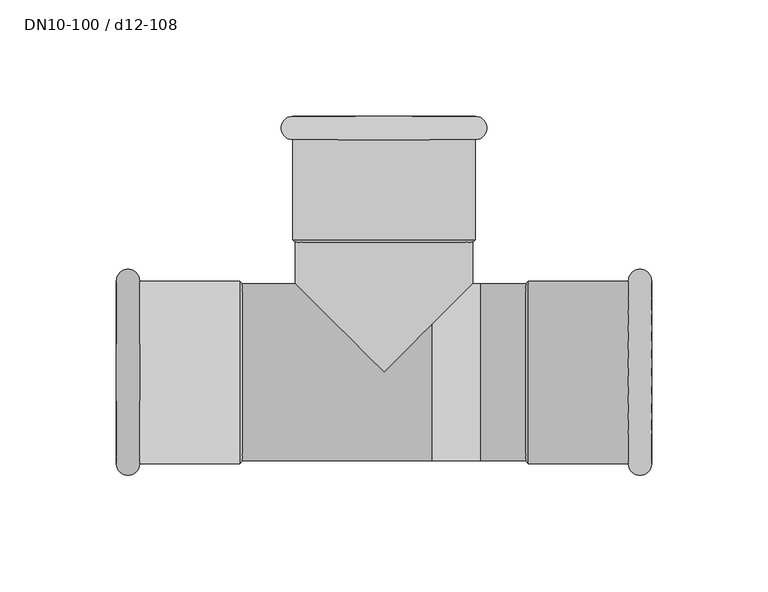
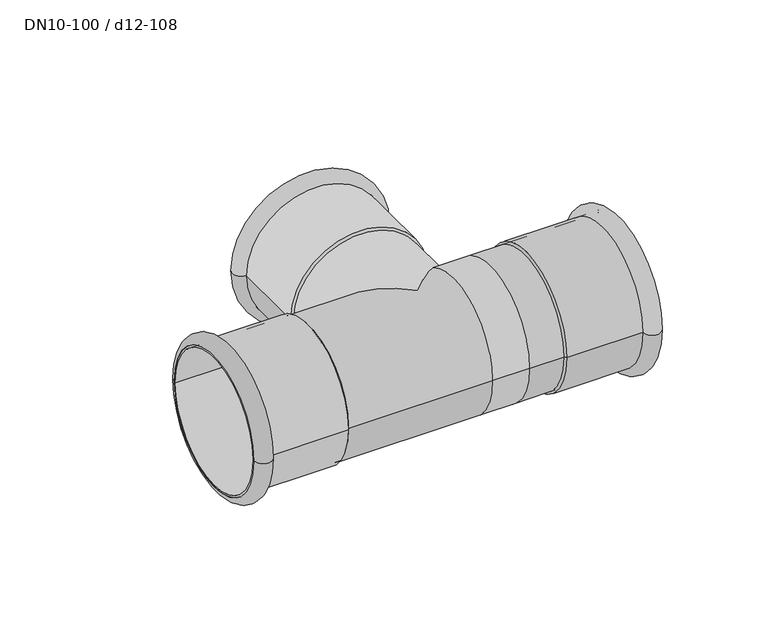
"""IFC4 building model written with IfcOpenShell, lengths in millimetres: pipe fitting geometry, NLRS_50_PIF_UN_Mapress koper gelijkzijdig T-stuk_geb : DN10-100 / d12-108."""

from ifc_helpers import new_model, si_unit, point, frame, origin, place, context, project, spatial, polyline, circle_curve, ellipse_curve, trimmed, source, transform, mapped, element, save
from ifc_brep_helpers import plane_surface, cylinder_surface, revolved_surface, advanced_brep


def dn10_100_d12_108_195be385(model_context):
    return source(origin(), model_context, "Body", "AdvancedBrep", [
        advanced_brep(
        [(39.25, 110.0, 0.0), (-39.25, 110.0, 0.0), (-39.25, 100.0, 0.0), (39.25, 100.0, 0.0)],
        [
            (0, 1, circle_curve(frame((0.0, 110.0, 0.0), z_axis=(0.0, 1.0, 0.0), x_axis=(-1.0000000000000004, 0.0, 0.0)), 39.25)),
            (1, 2),
            (2, 3, circle_curve(frame((0.0, 100.0, 0.0), z_axis=(0.0, -1.0, 0.0), x_axis=(-1.0000000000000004, 0.0, 0.0)), 39.25)),
            (3, 0),
            (1, 0, circle_curve(frame((0.0, 110.0, 0.0), z_axis=(0.0, 1.0, 0.0), x_axis=(-1.0000000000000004, 0.0, 0.0)), 39.25)),
            (3, 2, circle_curve(frame((0.0, 100.0, 0.0), z_axis=(0.0, -1.0, 0.0), x_axis=(-1.0000000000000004, 0.0, 0.0)), 39.25)),
            (2, 1, circle_curve(frame((-39.25, 105.0, 0.0), z_axis=(0.0, 0.0, -1.0000000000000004), x_axis=(0.0, 1.0, 0.0)), 5.0)),
            (0, 3, circle_curve(frame((39.25, 105.0, 0.0), z_axis=(0.0, 0.0, -1.0000000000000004), x_axis=(0.0, 1.0, 0.0)), 5.0)),
        ],
        [
            revolved_surface(polyline([(-39.250000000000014, 100.0, 0.0), (-39.250000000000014, 110.0, 0.0)]), (0.0, 57.0, 0.0), (0.0, -1.0, 0.0)),
            revolved_surface(trimmed(ellipse_curve(frame((-39.25, 105.0, 0.0), z_axis=(0.0, 0.0, 1.0000000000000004), x_axis=(0.0, 1.0, 0.0)), 5.0, 5.0), [point((-39.25, 110.0, 0.0))], [point((-39.25, 100.0, 0.0))], True, "CARTESIAN"), (0.0, 57.0, 0.0), (0.0, -1.0, 0.0)),
        ],
        [
            (0, [[1, 2, 3, 4]]),
            (0, [[5, -4, 6, -2]]),
            (1, [[-3, 7, -1, 8]]),
            (1, [[-6, -8, -5, -7]]),
        ],
    ),
        advanced_brep(
        [(38.05, 110.0, 0.0), (-38.05, 110.0, 0.0), (-38.05, 56.0, 0.0), (38.05, 56.0, 0.0), (39.25, 110.0, 0.0), (-39.25, 110.0, 0.0), (39.25, 57.0, 0.0), (-39.25, 57.0, 0.0)],
        [
            (0, 1, circle_curve(frame((0.0, 110.0, 0.0), z_axis=(0.0, 1.0, 0.0), x_axis=(-1.0000000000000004, 0.0, 0.0)), 38.05)),
            (1, 2),
            (2, 3, circle_curve(frame((0.0, 56.0, 0.0), z_axis=(0.0, -1.0, 0.0), x_axis=(-1.0000000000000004, 0.0, 0.0)), 38.05)),
            (3, 0),
            (1, 0, circle_curve(frame((0.0, 110.0, 0.0), z_axis=(0.0, 1.0, 0.0), x_axis=(-1.0000000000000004, 0.0, 0.0)), 38.05)),
            (3, 2, circle_curve(frame((0.0, 56.0, 0.0), z_axis=(0.0, -1.0, 0.0), x_axis=(-1.0000000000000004, 0.0, 0.0)), 38.05)),
            (4, 5, circle_curve(frame((0.0, 110.0, 0.0), z_axis=(0.0, 1.0, 0.0), x_axis=(-1.0000000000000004, 0.0, 0.0)), 39.25)),
            (5, 1),
            (0, 4),
            (5, 4, circle_curve(frame((0.0, 110.0, 0.0), z_axis=(0.0, 1.0, 0.0), x_axis=(-1.0000000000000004, 0.0, 0.0)), 39.25)),
            (6, 7, circle_curve(frame((0.0, 57.0, 0.0), z_axis=(0.0, 1.0, 0.0), x_axis=(-1.0000000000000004, 0.0, 0.0)), 39.25)),
            (7, 5),
            (4, 6),
            (7, 6, circle_curve(frame((0.0, 57.0, 0.0), z_axis=(0.0, 1.0, 0.0), x_axis=(-1.0000000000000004, 0.0, 0.0)), 39.25)),
            (2, 7),
            (6, 3),
        ],
        [
            revolved_surface(polyline([(-38.05000000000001, 56.0, 0.0), (-38.05000000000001, 110.0, 0.0)]), (0.0, 57.0, 0.0), (0.0, -1.0, 0.0)),
            plane_surface(frame((0.0, 110.0, 0.0), z_axis=(0.0, 1.0, 0.0), x_axis=(-1.0, 0.0, 0.0))),
            cylinder_surface(frame((0.0, 57.0, 0.0), z_axis=(0.0, -1.0, 0.0), x_axis=(-1.0000000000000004, 0.0, 0.0)), 39.25),
            revolved_surface(polyline([(-39.25, 57.0, 0.0), (-38.05, 56.0, 0.0)]), (0.0, 57.0, 0.0), (0.0, -1.0, 0.0)),
        ],
        [
            (0, [[1, 2, 3, 4]]),
            (0, [[5, -4, 6, -2]]),
            (1, [[7, 8, -1, 9]]),
            (1, [[10, -9, -5, -8]]),
            (2, [[11, 12, -7, 13]]),
            (2, [[14, -13, -10, -12]]),
            (3, [[-3, 15, -11, 16]]),
            (3, [[-6, -16, -14, -15]]),
        ],
    ),
        advanced_brep(
        [(115.0, -39.25, 0.0), (115.0, 39.25, 0.0), (105.0, 39.25, 0.0), (105.0, -39.25, 0.0)],
        [
            (0, 1, circle_curve(frame((115.0, 0.0, 0.0), z_axis=(1.0, 0.0, 0.0), x_axis=(0.0, 1.0, 0.0)), 39.25)),
            (1, 2),
            (2, 3, circle_curve(frame((105.0, 0.0, 0.0), z_axis=(-1.0, 0.0, 0.0), x_axis=(0.0, 1.0, 0.0)), 39.25)),
            (3, 0),
            (1, 0, circle_curve(frame((115.0, 0.0, 0.0), z_axis=(1.0, 0.0, 0.0), x_axis=(0.0, 1.0, 0.0)), 39.25)),
            (3, 2, circle_curve(frame((105.0, 0.0, 0.0), z_axis=(-1.0, 0.0, 0.0), x_axis=(0.0, 1.0, 0.0)), 39.25)),
            (2, 1, circle_curve(frame((110.0, 39.25, 0.0), z_axis=(0.0, 0.0, -1.0), x_axis=(1.0, 0.0, 0.0)), 5.0)),
            (0, 3, circle_curve(frame((110.0, -39.25, 0.0), z_axis=(0.0, 0.0, -1.0), x_axis=(1.0, 0.0, 0.0)), 5.0)),
        ],
        [
            revolved_surface(polyline([(105.0, 39.25, 0.0), (115.0, 39.25, 0.0)]), (62.0, 0.0, 0.0), (-1.0, 0.0, 0.0)),
            revolved_surface(trimmed(ellipse_curve(frame((110.0, 39.25, 0.0), z_axis=(0.0, 0.0, 1.0), x_axis=(1.0, 0.0, 0.0)), 5.0, 5.0), [point((115.0, 39.25, 0.0))], [point((105.0, 39.25, 0.0))], True, "CARTESIAN"), (62.0, 0.0, 0.0), (-1.0, 0.0, 0.0)),
        ],
        [
            (0, [[1, 2, 3, 4]]),
            (0, [[5, -4, 6, -2]]),
            (1, [[-3, 7, -1, 8]]),
            (1, [[-6, -8, -5, -7]]),
        ],
    ),
        advanced_brep(
        [(115.0, -38.05, 0.0), (115.0, 38.05, 0.0), (61.0, 38.05, 0.0), (61.0, -38.05, 0.0), (115.0, -39.25, 0.0), (115.0, 39.25, 0.0), (62.0, -39.25, 0.0), (62.0, 39.25, 0.0)],
        [
            (0, 1, circle_curve(frame((115.0, 0.0, 0.0), z_axis=(1.0, 0.0, 0.0), x_axis=(0.0, 1.0, 0.0)), 38.05)),
            (1, 2),
            (2, 3, circle_curve(frame((61.0, 0.0, 0.0), z_axis=(-1.0, 0.0, 0.0), x_axis=(0.0, 1.0, 0.0)), 38.05)),
            (3, 0),
            (1, 0, circle_curve(frame((115.0, 0.0, 0.0), z_axis=(1.0, 0.0, 0.0), x_axis=(0.0, 1.0, 0.0)), 38.05)),
            (3, 2, circle_curve(frame((61.0, 0.0, 0.0), z_axis=(-1.0, 0.0, 0.0), x_axis=(0.0, 1.0, 0.0)), 38.05)),
            (4, 5, circle_curve(frame((115.0, 0.0, 0.0), z_axis=(1.0, 0.0, 0.0), x_axis=(0.0, 1.0, 0.0)), 39.25)),
            (5, 1),
            (0, 4),
            (5, 4, circle_curve(frame((115.0, 0.0, 0.0), z_axis=(1.0, 0.0, 0.0), x_axis=(0.0, 1.0, 0.0)), 39.25)),
            (6, 7, circle_curve(frame((62.0, 0.0, 0.0), z_axis=(1.0, 0.0, 0.0), x_axis=(0.0, 1.0, 0.0)), 39.25)),
            (7, 5),
            (4, 6),
            (7, 6, circle_curve(frame((62.0, 0.0, 0.0), z_axis=(1.0, 0.0, 0.0), x_axis=(0.0, 1.0, 0.0)), 39.25)),
            (2, 7),
            (6, 3),
        ],
        [
            revolved_surface(polyline([(61.0, 38.05, 0.0), (115.0, 38.05, 0.0)]), (62.0, 0.0, 0.0), (-1.0, 0.0, 0.0)),
            plane_surface(frame((115.0, 0.0, 0.0), z_axis=(1.0, 0.0, 0.0), x_axis=(0.0, 1.0, 0.0))),
            cylinder_surface(frame((62.0, 0.0, 0.0), z_axis=(-1.0, 0.0, 0.0), x_axis=(0.0, 1.0, 0.0)), 39.25),
            revolved_surface(polyline([(62.0, 39.25, 0.0), (61.0, 38.05, 0.0)]), (62.0, 0.0, 0.0), (-1.0, 0.0, 0.0)),
        ],
        [
            (0, [[1, 2, 3, 4]]),
            (0, [[5, -4, 6, -2]]),
            (1, [[7, 8, -1, 9]]),
            (1, [[10, -9, -5, -8]]),
            (2, [[11, 12, -7, 13]]),
            (2, [[14, -13, -10, -12]]),
            (3, [[-3, 15, -11, 16]]),
            (3, [[-6, -16, -14, -15]]),
        ],
    ),
        advanced_brep(
        [(-115.0, 39.25, 0.0), (-115.0, -39.25, 0.0), (-105.0, -39.25, 0.0), (-105.0, 39.25, 0.0)],
        [
            (0, 1, circle_curve(frame((-115.0, 0.0, 0.0), z_axis=(-1.0, 0.0, 0.0), x_axis=(0.0, -1.0000000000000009, 0.0)), 39.25)),
            (1, 2),
            (2, 3, circle_curve(frame((-105.0, 0.0, 0.0), z_axis=(1.0, 0.0, 0.0), x_axis=(0.0, -1.0000000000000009, 0.0)), 39.25)),
            (3, 0),
            (1, 0, circle_curve(frame((-115.0, 0.0, 0.0), z_axis=(-1.0, 0.0, 0.0), x_axis=(0.0, -1.0000000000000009, 0.0)), 39.25)),
            (3, 2, circle_curve(frame((-105.0, 0.0, 0.0), z_axis=(1.0, 0.0, 0.0), x_axis=(0.0, -1.0000000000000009, 0.0)), 39.25)),
            (2, 1, circle_curve(frame((-110.0, -39.25, 0.0), z_axis=(0.0, 0.0, -1.0000000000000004), x_axis=(-1.0000000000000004, 0.0, 0.0)), 5.0)),
            (0, 3, circle_curve(frame((-110.0, 39.25, 0.0), z_axis=(0.0, 0.0, -1.0000000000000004), x_axis=(-1.0000000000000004, 0.0, 0.0)), 5.0)),
        ],
        [
            revolved_surface(polyline([(-105.00000000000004, -39.250000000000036, 0.0), (-115.00000000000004, -39.250000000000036, 0.0)]), (-62.0, 0.0, 0.0), (1.0000000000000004, 0.0, 0.0)),
            revolved_surface(trimmed(ellipse_curve(frame((-110.0, -39.25, 0.0), z_axis=(0.0, 0.0, 1.0000000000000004), x_axis=(-1.0000000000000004, 0.0, 0.0)), 5.0, 5.0), [point((-115.0, -39.25, 0.0))], [point((-105.0, -39.25, 0.0))], True, "CARTESIAN"), (-62.0, 0.0, 0.0), (1.0000000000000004, 0.0, 0.0)),
        ],
        [
            (0, [[1, 2, 3, 4]]),
            (0, [[5, -4, 6, -2]]),
            (1, [[-3, 7, -1, 8]]),
            (1, [[-6, -8, -5, -7]]),
        ],
    ),
        advanced_brep(
        [(-115.0, 38.05, 0.0), (-115.0, -38.05, 0.0), (-61.0, -38.05, 0.0), (-61.0, 38.05, 0.0), (-115.0, 39.25, 0.0), (-115.0, -39.25, 0.0), (-62.0, 39.25, 0.0), (-62.0, -39.25, 0.0)],
        [
            (0, 1, circle_curve(frame((-115.0, 0.0, 0.0), z_axis=(-1.0, 0.0, 0.0), x_axis=(0.0, -1.0000000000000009, 0.0)), 38.05)),
            (1, 2),
            (2, 3, circle_curve(frame((-61.0, 0.0, 0.0), z_axis=(1.0, 0.0, 0.0), x_axis=(0.0, -1.0000000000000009, 0.0)), 38.05)),
            (3, 0),
            (1, 0, circle_curve(frame((-115.0, 0.0, 0.0), z_axis=(-1.0, 0.0, 0.0), x_axis=(0.0, -1.0000000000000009, 0.0)), 38.05)),
            (3, 2, circle_curve(frame((-61.0, 0.0, 0.0), z_axis=(1.0, 0.0, 0.0), x_axis=(0.0, -1.0000000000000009, 0.0)), 38.05)),
            (4, 5, circle_curve(frame((-115.0, 0.0, 0.0), z_axis=(-1.0, 0.0, 0.0), x_axis=(0.0, -1.0000000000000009, 0.0)), 39.25)),
            (5, 1),
            (0, 4),
            (5, 4, circle_curve(frame((-115.0, 0.0, 0.0), z_axis=(-1.0, 0.0, 0.0), x_axis=(0.0, -1.0000000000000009, 0.0)), 39.25)),
            (6, 7, circle_curve(frame((-62.0, 0.0, 0.0), z_axis=(-1.0, 0.0, 0.0), x_axis=(0.0, -1.0000000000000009, 0.0)), 39.25)),
            (7, 5),
            (4, 6),
            (7, 6, circle_curve(frame((-62.0, 0.0, 0.0), z_axis=(-1.0, 0.0, 0.0), x_axis=(0.0, -1.0000000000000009, 0.0)), 39.25)),
            (2, 7),
            (6, 3),
        ],
        [
            revolved_surface(polyline([(-61.0, -38.05000000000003, 0.0), (-115.00000000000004, -38.05000000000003, 0.0)]), (-62.0, 0.0, 0.0), (1.0000000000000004, 0.0, 0.0)),
            plane_surface(frame((-115.0, 0.0, 0.0), z_axis=(-1.0, 0.0, 0.0), x_axis=(0.0, -1.0, 0.0))),
            cylinder_surface(frame((-62.0, 0.0, 0.0), z_axis=(1.0000000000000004, 0.0, 0.0), x_axis=(0.0, -1.0000000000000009, 0.0)), 39.25),
            revolved_surface(polyline([(-62.0, -39.25, 0.0), (-61.0, -38.05, 0.0)]), (-62.0, 0.0, 0.0), (1.0000000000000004, 0.0, 0.0)),
        ],
        [
            (0, [[1, 2, 3, 4]]),
            (0, [[5, -4, 6, -2]]),
            (1, [[7, 8, -1, 9]]),
            (1, [[10, -9, -5, -8]]),
            (2, [[11, 12, -7, 13]]),
            (2, [[14, -13, -10, -12]]),
            (3, [[-3, 15, -11, 16]]),
            (3, [[-6, -16, -14, -15]]),
        ],
    ),
        advanced_brep(
        [(41.3333333, -38.05, 0.0), (20.6666667, -38.05, 0.0), (20.6666667, 20.6666667, -31.9482611), (38.05, 38.05, 0.0), (41.3333333, 38.05, 0.0), (20.6666667, 20.6666667, 31.9482611), (62.0, -38.05, 0.0), (62.0, 38.05, 0.0), (-62.0, -38.05, 0.0), (-62.0, 38.05, 0.0), (0.0, 0.0, 38.05), (-38.05, 38.05, 0.0), (0.0, 0.0, -38.05), (38.05, 57.0, 0.0), (-38.05, 57.0, 0.0)],
        [
            (0, 1),
            (1, 2, circle_curve(frame((20.6666667, 0.0, 0.0), z_axis=(1.0, 0.0, 0.0), x_axis=(0.0, 0.0, -1.0)), 38.05)),
            (2, 3, ellipse_curve(frame((0.0, 0.0, 0.0), z_axis=(0.7071067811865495, -0.7071067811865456, 0.0), x_axis=(0.7071067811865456, 0.7071067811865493, 0.0)), 53.810826, 38.05)),
            (3, 4),
            (4, 0, circle_curve(frame((41.3333333, 0.0, 0.0), z_axis=(-1.0, 0.0, 0.0), x_axis=(0.0, 0.0, -1.0)), 38.05)),
            (0, 4, circle_curve(frame((41.3333333, 0.0, 0.0), z_axis=(-1.0, 0.0, 0.0), x_axis=(0.0, 0.0, 1.0)), 38.05)),
            (3, 5, ellipse_curve(frame((0.0, 0.0, 0.0), z_axis=(0.7071067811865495, -0.7071067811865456, 0.0), x_axis=(0.7071067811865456, 0.7071067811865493, 0.0)), 53.810826, 38.05)),
            (5, 1, circle_curve(frame((20.6666667, 0.0, 0.0), z_axis=(1.0, 0.0, 0.0), x_axis=(0.0, 0.0, 1.0)), 38.05)),
            (6, 7, circle_curve(frame((62.0, 0.0, 0.0), z_axis=(1.0, 0.0, 0.0), x_axis=(0.0, 1.0, 0.0)), 38.05)),
            (7, 6, circle_curve(frame((62.0, 0.0, 0.0), z_axis=(1.0, 0.0, 0.0), x_axis=(0.0, 1.0, 0.0)), 38.05)),
            (7, 4),
            (0, 6),
            (8, 9, circle_curve(frame((-62.0, 0.0, 0.0), z_axis=(-1.0, 0.0, 0.0), x_axis=(0.0, 1.0, 0.0)), 38.05)),
            (9, 8, circle_curve(frame((-62.0, 0.0, 0.0), z_axis=(-1.0, 0.0, 0.0), x_axis=(0.0, 1.0, 0.0)), 38.05)),
            (8, 1),
            (5, 10, ellipse_curve(frame((0.0, 0.0, 0.0), z_axis=(0.7071067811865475, -0.7071067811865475, 0.0), x_axis=(-0.7071067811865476, -0.7071067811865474, 0.0)), 53.810826, 38.05)),
            (10, 11, ellipse_curve(frame((0.0, 0.0, 0.0), z_axis=(-0.7071067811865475, -0.7071067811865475, 0.0), x_axis=(-0.7071067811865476, 0.7071067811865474, 0.0)), 53.810826, 38.05)),
            (11, 9),
            (11, 12, ellipse_curve(frame((0.0, 0.0, 0.0), z_axis=(-0.7071067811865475, -0.7071067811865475, 0.0), x_axis=(-0.7071067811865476, 0.7071067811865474, 0.0)), 53.810826, 38.05)),
            (12, 2, ellipse_curve(frame((0.0, 0.0, 0.0), z_axis=(0.7071067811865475, -0.7071067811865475, 0.0), x_axis=(-0.7071067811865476, -0.7071067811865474, 0.0)), 53.810826, 38.05)),
            (13, 14, circle_curve(frame((0.0, 57.0, 0.0), z_axis=(0.0, 1.0, 0.0), x_axis=(-1.0, 0.0, 0.0)), 38.05)),
            (14, 13, circle_curve(frame((0.0, 57.0, 0.0), z_axis=(0.0, 1.0, 0.0), x_axis=(-1.0, 0.0, 0.0)), 38.05)),
            (14, 11),
            (3, 13),
        ],
        [
            cylinder_surface(frame((20.6666667, 0.0, 0.0), z_axis=(1.0, 0.0, 0.0), x_axis=(0.0, 0.0, -1.0)), 38.05),
            cylinder_surface(frame((20.6666667, 0.0, 0.0), z_axis=(1.0, 0.0, 0.0), x_axis=(0.0, 0.0, 1.0)), 38.05),
            plane_surface(frame((62.0, 0.0, 0.0), z_axis=(1.0, 0.0, 0.0), x_axis=(0.0, 0.0, 1.0))),
            cylinder_surface(frame((41.3333333, 0.0, 0.0), z_axis=(-1.0, 0.0, 0.0), x_axis=(0.0, 1.0, 0.0)), 38.05),
            plane_surface(frame((-62.0, 0.0, 0.0), z_axis=(-1.0, 0.0, 0.0), x_axis=(0.0, 0.0, 1.0))),
            cylinder_surface(frame((-62.0, 0.0, 0.0), z_axis=(-1.0, 0.0, 0.0), x_axis=(0.0, 1.0, 0.0)), 38.05),
            plane_surface(frame((0.0, 57.0, 0.0), z_axis=(0.0, 1.0, 0.0), x_axis=(0.0, 0.0, 1.0))),
            cylinder_surface(frame((0.0, 0.0, 0.0), z_axis=(0.0, -1.0, 0.0), x_axis=(-1.0, 0.0, 0.0)), 38.05),
        ],
        [
            (0, [[1, 2, 3, 4, 5]]),
            (1, [[-1, 6, -4, 7, 8]]),
            (2, [[9, 10]]),
            (3, [[-10, 11, -6, 12]]),
            (3, [[-9, -12, -5, -11]]),
            (4, [[13, 14]]),
            (5, [[-13, 15, -8, 16, 17, 18]]),
            (5, [[-14, -18, 19, 20, -2, -15]]),
            (6, [[21, 22]]),
            (7, [[-22, 23, -17, -16, -7, 24]]),
            (7, [[-21, -24, -3, -20, -19, -23]]),
        ],
    ),
    ])


if __name__ == "__main__":
    model = new_model("IFC4")
    model_context = context("Model", 3, world=origin())
    ifc_project = project(units=[si_unit("LENGTHUNIT", "METRE", prefix="MILLI")], contexts=[model_context])
    site = spatial("IfcSite", under=ifc_project)
    building = spatial("IfcBuilding", under=site)
    placement = place(None, origin())
    dn10_100_d12_108_shape = dn10_100_d12_108_195be385(model_context)
    element("IfcPipeFitting", 1, ObjectType="NLRS_50_PIF_UN_Mapress koper gelijkzijdig T-stuk_geb : DN10-100 / d12-108", at=placement, inside=building, context=model_context, shape_type="MappedRepresentation", body=[
        mapped(dn10_100_d12_108_shape, transform((0.0, 0.0, 0.0), x_axis=(1.0, 0.0, 0.0), y_axis=(0.0, 1.0, 0.0), z_axis=(0.0, 0.0, 1.0))),
    ])
    save(model, "model.ifc")
